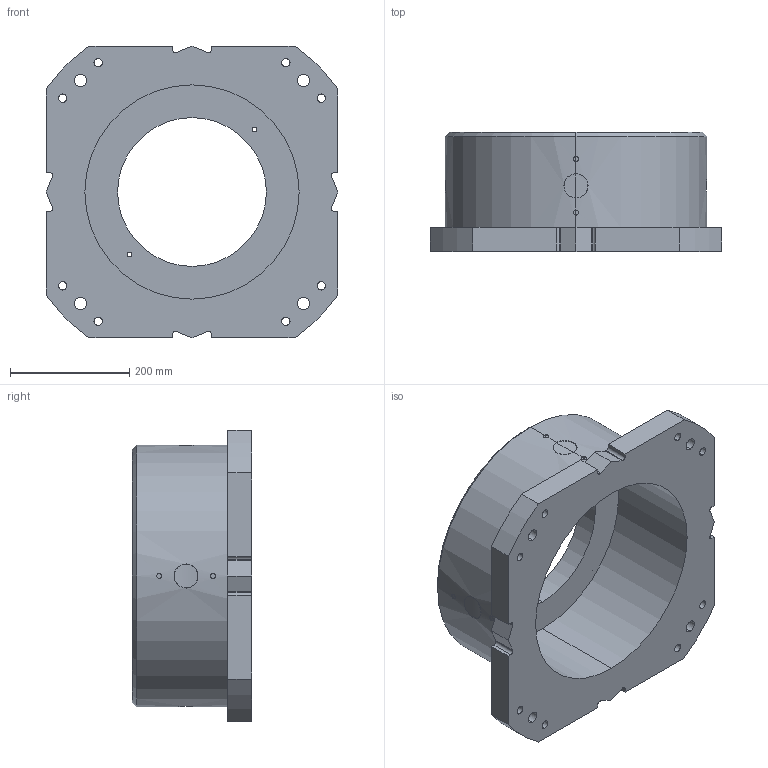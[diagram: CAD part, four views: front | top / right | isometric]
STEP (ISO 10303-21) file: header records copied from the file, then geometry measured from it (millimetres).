
FILE_DESCRIPTION (( 'STEP AP214' ), '1' );
FILE_NAME ('G-200.STEP', '2025-12-05T13:04:01', ( '' ), ( '' ), 'SwSTEP 2.0', 'SolidWorks 2022', '' );
FILE_SCHEMA (( 'AUTOMOTIVE_DESIGN' ));
Length unit declared in the file: millimetre
Products named in the file (1): G-200
Bounding box: 490 x 200 x 490 mm (x, y, z)
Volume: 14939530.1 mm3; surface area: 890287.2 mm2
Topology: 1 solids, 1 shells, 139 faces, 377 edges, 244 vertices
Faces by surface type: cylinder 93, plane 28, cone 10, bspline 8
Entity records: 7530 total; most frequent: CARTESIAN_POINT 3459, ORIENTED_EDGE 738, DIRECTION 685, EDGE_CURVE 369, AXIS2_PLACEMENT_3D 258, VERTEX_POINT 244, EDGE_LOOP 181, LINE 169
